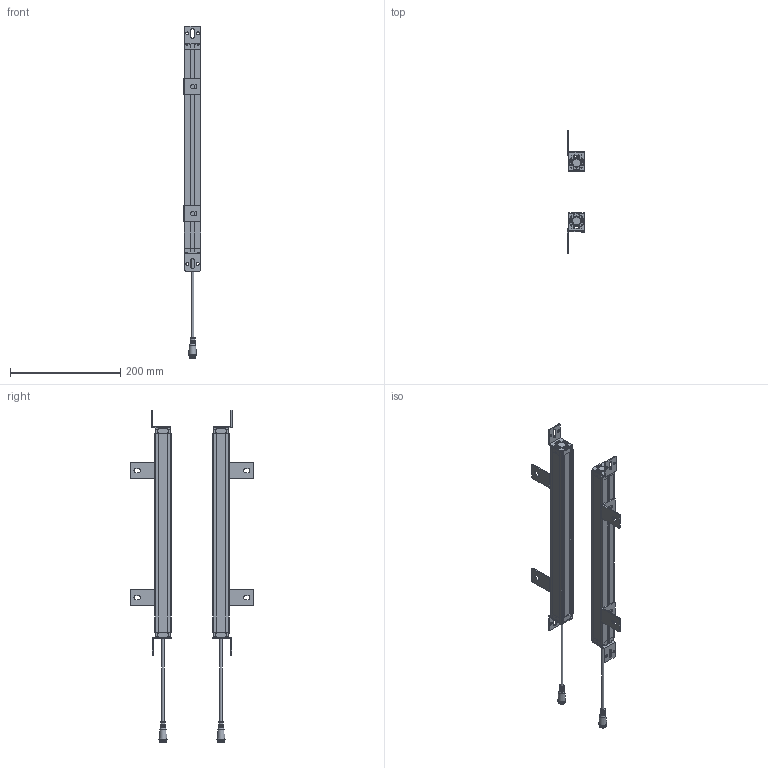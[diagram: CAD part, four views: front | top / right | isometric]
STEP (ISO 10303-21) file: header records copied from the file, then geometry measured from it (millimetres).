
FILE_DESCRIPTION(/* description */ (''),/* implementation_level */ '2;1');
FILE_NAME(/* name */ '1820（29x30）.stp',/* time_stamp */ '2023-04-28T14:49:14+08:00',/* author */ (''),/* organization */ (''),/* preprocessor_version */ 'ST-DEVELOPER v16.7',/* originating_system */ 'SIEMENS PLM Software NX 12.0',/* authorisation */ '');
FILE_SCHEMA (('AUTOMOTIVE_DESIGN { 1 0 10303 214 3 1 1 1 }'));
Products named in the file (1): 3020（29x30）_stp
Bounding box: 32.03 x 223.99 x 601 mm (x, y, z)
Volume: 267416.9 mm3; surface area: 279507.5 mm2
Topology: 34 solids, 34 shells, 1610 faces, 4267 edges, 2771 vertices
Faces by surface type: plane 750, cylinder 648, bspline 88, sphere 36, cone 36, torus 32, extrusion 20
Full cylindrical faces by diameter (mm): 1.533 x6, 4.4 x4, 9 x2, 12.5 x2
Entity records: 56427 total; most frequent: CARTESIAN_POINT 16064, DIRECTION 8330, ORIENTED_EDGE 8324, EDGE_CURVE 4162, AXIS2_PLACEMENT_3D 2918, VERTEX_POINT 2696, VECTOR 2494, LINE 2474
